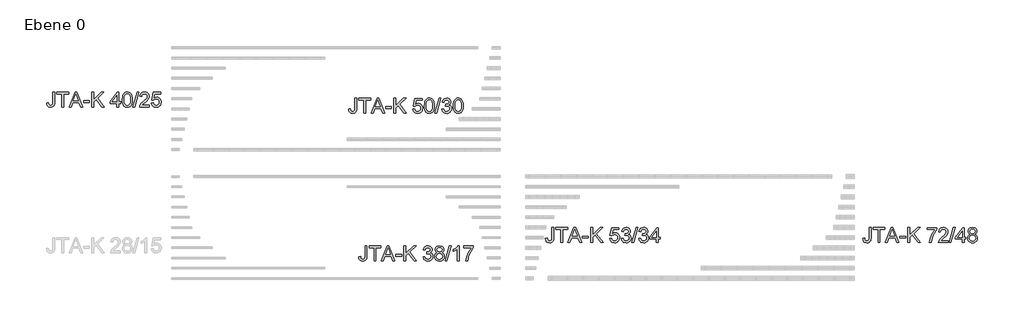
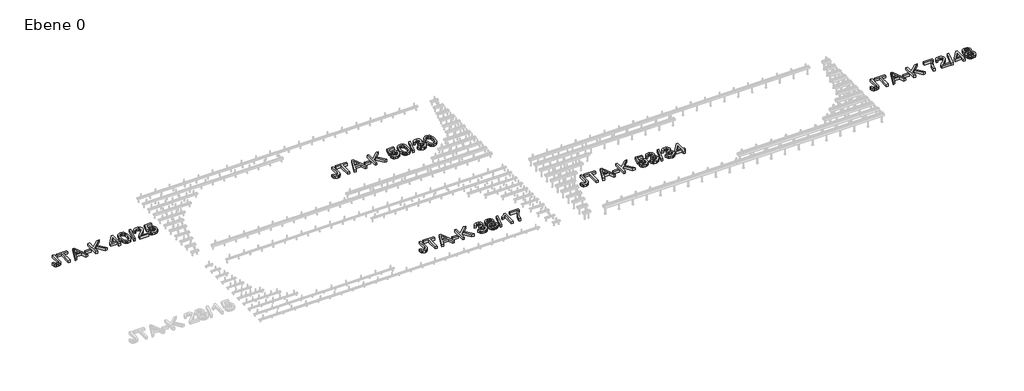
# One storey, part 2 of 2: 5 proxies.
"""IFC4 building model written with IfcOpenShell, lengths in millimetres."""

from ifc_helpers import new_model, si_unit, origin, origin_with_axes, place, context, project, spatial, polyline, outline, extrude, element, save

model = new_model("IFC4")

# Units and contexts
model_context = context("Model", 3, world=origin())
ifc_project = project(units=[si_unit("LENGTHUNIT", "METRE", prefix="MILLI")], contexts=[model_context])

# Site, building, storey
site = spatial("IfcSite", under=ifc_project)
building = spatial("IfcBuilding", under=site)
storey = spatial("IfcBuildingStorey", under=building, Name="Ebene 0", Elevation=0.0)

# Proxies
placement = place(None, origin())
element("IfcBuildingElementProxy", 1, Name="600mm Arial", ObjectType="600mm Arial", at=placement, inside=storey, context=model_context, shape_type="SweptSolid", body=[
    extrude(outline(polyline([(-10093.7628927, 765.6259075), (-10056.8398158, 770.3855229), (-10052.9996716, 743.5405709), (-10044.2196235, 726.7557152), (-10030.806162, 717.9396094), (-10013.0657774, 715.0009075), (-9999.4269552, 716.6685757), (-9987.789335, 721.6715805), (-9978.8109697, 729.5501863), (-9973.149912, 739.8446575), (-9969.1475081, 776.4432152), (-9969.1475081, 978.0778305), (-9932.2244312, 978.0778305), (-9932.2244312, 777.0922536), (-9934.4509937, 744.2166527), (-9941.1306812, 719.7244652), (-9952.6511139, 701.8308354), (-9969.399912, 688.7509075), (-9990.430561, 680.7460998), (-10014.7965466, 678.0778305), (-10048.9251524, 683.585643), (-10062.595525, 690.4704087), (-10074.0032774, 700.1090805), (-10082.945585, 712.465601), (-10089.2196235, 727.5039123), (-10093.7628927, 765.6259075)])), origin_with_axes(), (0.0, 0.0, 1.0), 50.0),
    extrude(outline(polyline([(-9793.7628927, 682.6932152), (-9793.7628927, 941.1547536), (-9890.6859697, 941.1547536), (-9890.6859697, 978.0778305), (-9659.9167389, 978.0778305), (-9659.9167389, 941.1547536), (-9756.8398158, 941.1547536), (-9756.8398158, 682.6932152), (-9793.7628927, 682.6932152)])), origin_with_axes(), (0.0, 0.0, 1.0), 50.0),
    extrude(outline(polyline([(-9652.7773158, 682.6932152), (-9534.868662, 978.0778305), (-9503.4263543, 978.0778305), (-9385.5177004, 682.6932152), (-9424.5321235, 682.6932152), (-9458.3542389, 775.0009075), (-9580.0128927, 775.0009075), (-9613.7628927, 682.6932152), (-9652.7773158, 682.6932152)]), holes=[polyline([(-9566.4552004, 811.9239844), (-9471.8398158, 811.9239844), (-9498.4503927, 884.5441767), (-9519.1475081, 941.1547536), (-9537.5369312, 890.8903305), (-9566.4552004, 811.9239844)])]), origin_with_axes(), (0.0, 0.0, 1.0), 50.0),
    extrude(outline(polyline([(-9369.1475081, 770.3855229), (-9369.1475081, 807.3085998), (-9253.7628927, 807.3085998), (-9253.7628927, 770.3855229), (-9369.1475081, 770.3855229)])), origin_with_axes(), (0.0, 0.0, 1.0), 50.0),
    extrude(outline(polyline([(-9207.6090466, 682.6932152), (-9207.6090466, 978.0778305), (-9170.6859697, 978.0778305), (-9170.6859697, 833.4864844), (-9019.243662, 978.0778305), (-8967.6090466, 978.0778305), (-9094.7484697, 856.6355229), (-8962.993662, 682.6932152), (-9008.1378927, 682.6932152), (-9120.9263543, 831.6835998), (-9170.6859697, 784.2316767), (-9170.6859697, 682.6932152), (-9207.6090466, 682.6932152)])), origin_with_axes(), (0.0, 0.0, 1.0), 50.0),
    extrude(outline(polyline([(-8713.7628927, 682.6932152), (-8713.7628927, 751.9239844), (-8847.6090466, 751.9239844), (-8847.6090466, 788.8470613), (-8704.5321235, 973.4624459), (-8676.8398158, 973.4624459), (-8676.8398158, 788.8470613), (-8639.9167389, 788.8470613), (-8639.9167389, 751.9239844), (-8676.8398158, 751.9239844), (-8676.8398158, 682.6932152), (-8713.7628927, 682.6932152)]), holes=[polyline([(-8713.7628927, 788.8470613), (-8713.7628927, 902.9335998), (-8802.1763543, 788.8470613), (-8713.7628927, 788.8470613)])]), origin_with_axes(), (0.0, 0.0, 1.0), 50.0),
    extrude(outline(polyline([(-8607.6090466, 828.0057152), (-8604.8957052, 875.2863642), (-8596.7556812, 912.9936959), (-8583.2701043, 941.7046334), (-8564.5201043, 961.9960998), (-8540.3704649, 974.0573979), (-8510.6859697, 978.0778305), (-8487.9335658, 975.6980229), (-8467.5609697, 968.5585998), (-8450.52371, 956.9390084), (-8437.7773158, 941.1186959), (-8428.149912, 921.2328786), (-8420.4696235, 897.4167729), (-8415.4395754, 867.1733834), (-8413.7628927, 828.0057152), (-8416.4491908, 780.9954988), (-8424.508085, 743.3783113), (-8437.9125322, 714.6403305), (-8456.6354889, 694.2677344), (-8480.8392149, 682.1253065), (-8510.6859697, 678.0778305), (-8531.0225081, 679.835643), (-8549.0513543, 685.1090805), (-8564.7725081, 693.898143), (-8578.1859697, 706.2028305), (-8591.0585658, 728.4459195), (-8600.2532774, 756.1607632), (-8605.7701043, 789.3473618), (-8607.6090466, 828.0057152)]), holes=[polyline([(-8570.6859697, 828.0778305), (-8566.3590466, 769.9979027), (-8560.9503927, 750.1323678), (-8553.3782774, 736.383119), (-8534.0513543, 720.3464604), (-8510.6859697, 715.0009075), (-8487.320585, 720.3644892), (-8467.993662, 736.4552344), (-8460.4215466, 750.2270192), (-8455.0128927, 770.0880469), (-8450.6859697, 828.0778305), (-8454.868662, 884.8506671), (-8460.0970274, 904.6508474), (-8467.4167389, 918.726869), (-8486.7076043, 935.5477825), (-8511.118662, 941.1547536), (-8534.2316427, 936.2148498), (-8552.8013543, 921.3951382), (-8560.6258735, 906.070619), (-8566.2148158, 885.4095613), (-8570.6859697, 828.0778305)])]), origin_with_axes(), (0.0, 0.0, 1.0), 50.0),
    extrude(outline(polyline([(-8399.9167389, 682.6932152), (-8316.8398158, 978.0778305), (-8283.5225081, 978.0778305), (-8366.5994312, 682.6932152), (-8399.9167389, 682.6932152)])), origin_with_axes(), (0.0, 0.0, 1.0), 50.0),
    extrude(outline(polyline([(-8076.8398158, 719.6162921), (-8076.8398158, 682.6932152), (-8270.6859697, 682.6932152), (-8266.7196235, 708.1499459), (-8257.6150562, 728.0447777), (-8244.2917389, 747.3446575), (-8225.0189024, 767.5459796), (-8198.0657774, 790.1451382), (-8158.2220274, 825.5357632), (-8134.3157774, 851.6595613), (-8122.3626524, 872.8614844), (-8118.3782774, 893.4864844), (-8122.1372918, 911.9750661), (-8133.414335, 927.3446575), (-8150.7490706, 937.7022296), (-8172.681162, 941.1547536), (-8195.7130129, 937.7833594), (-8213.6066427, 927.6691767), (-8225.1541187, 911.6054748), (-8229.1475081, 890.3855229), (-8266.070585, 895.0009075), (-8257.1192629, 930.7160517), (-8248.7426103, 944.9633474), (-8237.7652966, 956.8037921), (-8224.4397257, 966.1111839), (-8209.0183014, 972.7593209), (-8171.8878927, 978.0778305), (-8152.0989805, 976.5994652), (-8134.4870514, 972.164369), (-8119.0521055, 964.7725421), (-8105.7941427, 954.4239844), (-8095.1458555, 941.8849219), (-8087.539936, 927.9215805), (-8082.9763843, 912.5339604), (-8081.4552004, 895.7220613), (-8083.0958254, 878.0628065), (-8088.0177004, 860.7100421), (-8096.7526764, 843.0598017), (-8109.8326043, 824.508119), (-8130.6829649, 802.3596815), (-8162.7292389, 773.9191767), (-8205.2052004, 738.4023498), (-8221.8638543, 719.6162921), (-8076.8398158, 719.6162921)])), origin_with_axes(), (0.0, 0.0, 1.0), 50.0),
    extrude(outline(polyline([(-8039.9167389, 761.1547536), (-8002.993662, 765.7701382), (-7996.2148158, 743.6036719), (-7984.3878927, 727.7292729), (-7967.5669793, 718.1829988), (-7945.806162, 715.0009075), (-7919.3398158, 719.4269892), (-7899.508085, 732.7052344), (-7887.1222677, 753.3031911), (-7882.993662, 779.6884075), (-7886.8608495, 804.5321575), (-7898.462412, 823.5345613), (-7917.8884937, 835.5958594), (-7945.2292389, 839.6162921), (-7963.1408975, 838.0117248), (-7977.6451043, 833.1980229), (-7998.3782774, 816.539369), (-8035.3013543, 821.1547536), (-8002.993662, 973.4624459), (-7859.9167389, 973.4624459), (-7859.9167389, 936.539369), (-7973.1378927, 936.539369), (-7988.931162, 855.1932152), (-7962.55496, 871.2028305), (-7934.9167389, 876.539369), (-7916.9352185, 874.8852224), (-7900.4185418, 869.9227825), (-7885.3667088, 861.6520493), (-7871.7797197, 850.0730229), (-7860.5319733, 835.8933354), (-7852.4978687, 819.820619), (-7847.677406, 801.8548738), (-7846.070585, 781.9960998), (-7851.8578447, 745.0730229), (-7859.0919192, 728.6126863), (-7869.2196235, 713.4864844), (-7884.5621716, 697.9951983), (-7902.4648158, 686.929994), (-7922.9275562, 680.2908714), (-7945.9503927, 678.0778305), (-7982.2154168, 683.7659315), (-7997.5827545, 690.8760577), (-8011.1066427, 700.8302344), (-8022.3588963, 713.1326683), (-8030.9113302, 727.2875661), (-8039.9167389, 761.1547536)])), origin_with_axes(), (0.0, 0.0, 1.0), 50.0),
])
element("IfcBuildingElementProxy", 2, Name="600mm Arial", ObjectType="600mm Arial", at=placement, inside=storey, context=model_context, shape_type="SweptSolid", body=[
    extrude(outline(polyline([(-3973.7628927, -2254.3740925), (-3936.8398158, -2249.6144771), (-3932.9996716, -2276.4594291), (-3924.2196235, -2293.2442848), (-3910.806162, -2302.0603906), (-3893.0657774, -2304.9990925), (-3879.4269552, -2303.3314243), (-3867.789335, -2298.3284195), (-3858.8109697, -2290.4498137), (-3853.149912, -2280.1553425), (-3849.1475081, -2243.5567848), (-3849.1475081, -2041.9221695), (-3812.2244312, -2041.9221695), (-3812.2244312, -2242.9077464), (-3814.4509937, -2275.7833473), (-3821.1306812, -2300.2755348), (-3832.6511139, -2318.1691646), (-3849.399912, -2331.2490925), (-3870.430561, -2339.2539002), (-3894.7965466, -2341.9221695), (-3928.9251524, -2336.414357), (-3942.595525, -2329.5295913), (-3954.0032774, -2319.8909195), (-3962.945585, -2307.534399), (-3969.2196235, -2292.4960877), (-3973.7628927, -2254.3740925)])), origin_with_axes(), (0.0, 0.0, 1.0), 50.0),
    extrude(outline(polyline([(-3673.7628927, -2337.3067848), (-3673.7628927, -2078.8452464), (-3770.6859697, -2078.8452464), (-3770.6859697, -2041.9221695), (-3539.9167389, -2041.9221695), (-3539.9167389, -2078.8452464), (-3636.8398158, -2078.8452464), (-3636.8398158, -2337.3067848), (-3673.7628927, -2337.3067848)])), origin_with_axes(), (0.0, 0.0, 1.0), 50.0),
    extrude(outline(polyline([(-3532.7773158, -2337.3067848), (-3414.868662, -2041.9221695), (-3383.4263543, -2041.9221695), (-3265.5177004, -2337.3067848), (-3304.5321235, -2337.3067848), (-3338.3542389, -2244.9990925), (-3460.0128927, -2244.9990925), (-3493.7628927, -2337.3067848), (-3532.7773158, -2337.3067848)]), holes=[polyline([(-3446.4552004, -2208.0760156), (-3351.8398158, -2208.0760156), (-3378.4503927, -2135.4558233), (-3399.1475081, -2078.8452464), (-3417.5369312, -2129.1096695), (-3446.4552004, -2208.0760156)])]), origin_with_axes(), (0.0, 0.0, 1.0), 50.0),
    extrude(outline(polyline([(-3249.1475081, -2249.6144771), (-3249.1475081, -2212.6914002), (-3133.7628927, -2212.6914002), (-3133.7628927, -2249.6144771), (-3249.1475081, -2249.6144771)])), origin_with_axes(), (0.0, 0.0, 1.0), 50.0),
    extrude(outline(polyline([(-3087.6090466, -2337.3067848), (-3087.6090466, -2041.9221695), (-3050.6859697, -2041.9221695), (-3050.6859697, -2186.5135156), (-2899.243662, -2041.9221695), (-2847.6090466, -2041.9221695), (-2974.7484697, -2163.3644771), (-2842.993662, -2337.3067848), (-2888.1378927, -2337.3067848), (-3000.9263543, -2188.3164002), (-3050.6859697, -2235.7683233), (-3050.6859697, -2337.3067848), (-3087.6090466, -2337.3067848)])), origin_with_axes(), (0.0, 0.0, 1.0), 50.0),
    extrude(outline(polyline([(-2713.7628927, -2258.8452464), (-2676.8398158, -2254.2298618), (-2668.5735899, -2277.4329868), (-2656.4672197, -2293.1000541), (-2639.9257533, -2302.0243329), (-2618.3542389, -2304.9990925), (-2593.0417389, -2300.9065445), (-2573.4984697, -2288.6289002), (-2561.0044793, -2270.3115925), (-2556.8398158, -2248.1000541), (-2560.9684216, -2227.0153185), (-2573.3542389, -2209.9149579), (-2592.1042389, -2198.5838281), (-2615.3253927, -2194.8067848), (-2641.2148158, -2198.8452464), (-2637.1042389, -2161.9221695), (-2631.1907774, -2162.3548618), (-2609.0693831, -2159.7046214), (-2589.2917389, -2151.7539002), (-2575.337412, -2138.304381), (-2570.6859697, -2119.1577464), (-2574.0573639, -2103.211232), (-2584.1715466, -2090.2755348), (-2599.6042389, -2081.7028185), (-2618.931162, -2078.8452464), (-2638.2941427, -2081.7298618), (-2654.1234697, -2090.3837079), (-2665.67996, -2104.8067848), (-2672.2244312, -2124.9990925), (-2709.1475081, -2120.3837079), (-2698.2761139, -2087.2286598), (-2678.931162, -2062.4750541), (-2652.4648158, -2047.0603906), (-2620.2292389, -2041.9221695), (-2597.0170995, -2044.4552223), (-2575.6979889, -2052.054381), (-2557.7232293, -2064.0435637), (-2544.5441427, -2079.7466887), (-2536.4582052, -2097.8386358), (-2533.7628927, -2116.9942848), (-2536.3229889, -2134.8428425), (-2544.0032774, -2151.0327464), (-2556.695585, -2164.8248137), (-2574.2917389, -2175.4798618), (-2551.1787581, -2184.8188041), (-2534.0513543, -2200.7202464), (-2523.4503927, -2222.3188041), (-2519.9167389, -2248.7490925), (-2521.6835658, -2267.4810637), (-2526.9840466, -2284.7346695), (-2535.8181812, -2300.5099098), (-2548.1859697, -2314.8067848), (-2563.2535778, -2326.6697656), (-2580.1871716, -2335.1433233), (-2598.9867509, -2340.2274579), (-2619.6523158, -2341.9221695), (-2655.3494312, -2336.1349098), (-2670.7100081, -2328.9008353), (-2684.4119312, -2318.773131), (-2695.9008134, -2306.3467488), (-2704.6222677, -2292.2166406), (-2713.7628927, -2258.8452464)])), origin_with_axes(), (0.0, 0.0, 1.0), 50.0),
    extrude(outline(polyline([(-2433.8109697, -2174.6144771), (-2453.5795995, -2164.8789002), (-2467.4527966, -2151.6817848), (-2475.6469072, -2135.2935637), (-2478.3782774, -2115.9846695), (-2472.4287581, -2087.1204868), (-2454.5802004, -2063.2683233), (-2441.6940826, -2053.929381), (-2426.8338062, -2047.2587079), (-2391.1907774, -2041.9221695), (-2355.3314024, -2047.3849098), (-2340.3088663, -2054.2133353), (-2327.2244312, -2063.773131), (-2309.0513543, -2088.0039002), (-2304.508085, -2101.9041406), (-2302.993662, -2116.9942848), (-2305.6889745, -2135.6811839), (-2313.774912, -2151.7899579), (-2327.3416187, -2164.9059435), (-2346.4792389, -2174.6144771), (-2323.7538783, -2186.3242127), (-2307.212412, -2203.5688041), (-2297.1252725, -2225.5189243), (-2293.7628927, -2251.3452464), (-2295.430561, -2269.7617127), (-2300.4335658, -2286.6457271), (-2308.7719072, -2301.9972896), (-2320.445585, -2315.8164002), (-2334.8416187, -2327.2376743), (-2351.3470274, -2335.3957271), (-2369.961811, -2340.2905589), (-2390.6859697, -2341.9221695), (-2411.4101283, -2340.2837981), (-2430.024912, -2335.3686839), (-2446.5303206, -2327.1768269), (-2460.9263543, -2315.7082271), (-2472.6000322, -2301.7922115), (-2480.9383735, -2286.258107), (-2485.9413783, -2269.1059134), (-2487.6090466, -2250.335631), (-2484.1114504, -2223.5087079), (-2473.618662, -2201.4414002), (-2456.6715466, -2184.8909195), (-2433.8109697, -2174.6144771)]), holes=[polyline([(-2441.4552004, -2117.0664002), (-2438.1829649, -2133.1841887), (-2428.3662581, -2146.0567848), (-2412.2935418, -2154.4942848), (-2390.2532774, -2157.3067848), (-2368.726835, -2154.5123137), (-2352.8975081, -2146.1289002), (-2343.1619312, -2133.6889964), (-2339.9167389, -2118.7250541), (-2343.2701043, -2103.1932031), (-2353.3302004, -2090.3476502), (-2369.3758735, -2081.7208473), (-2390.6859697, -2078.8452464), (-2412.1312822, -2081.6577464), (-2428.149912, -2090.0952464), (-2438.1288783, -2102.4630348), (-2441.4552004, -2117.0664002)]), polyline([(-2450.6859697, -2249.0375541), (-2444.5201043, -2276.8380348), (-2435.9834456, -2288.7641166), (-2422.7052004, -2297.6433233), (-2406.8037581, -2303.1601502), (-2390.3975081, -2304.9990925), (-2365.2652966, -2301.131905), (-2346.4071235, -2289.5303425), (-2334.6162581, -2271.961232), (-2330.6859697, -2250.1914002), (-2334.74246, -2228.0519771), (-2346.9119312, -2210.0952464), (-2366.2027966, -2198.1962079), (-2391.6234697, -2194.2298618), (-2416.4041187, -2198.1421214), (-2435.0729889, -2209.8789002), (-2446.7827245, -2227.4930829), (-2450.6859697, -2249.0375541)])]), origin_with_axes(), (0.0, 0.0, 1.0), 50.0),
    extrude(outline(polyline([(-2279.9167389, -2337.3067848), (-2196.8398158, -2041.9221695), (-2163.5225081, -2041.9221695), (-2246.5994312, -2337.3067848), (-2279.9167389, -2337.3067848)])), origin_with_axes(), (0.0, 0.0, 1.0), 50.0),
    extrude(outline(polyline([(-2007.6090466, -2337.3067848), (-2044.5321235, -2337.3067848), (-2044.5321235, -2107.1144771), (-2079.508085, -2132.0303425), (-2118.3782774, -2150.6721695), (-2118.3782774, -2115.7683233), (-2089.3788783, -2099.9930829), (-2064.2556812, -2081.2250541), (-2044.4509937, -2061.2671214), (-2031.4071235, -2041.9221695), (-2007.6090466, -2041.9221695), (-2007.6090466, -2337.3067848)])), origin_with_axes(), (0.0, 0.0, 1.0), 50.0),
    extrude(outline(polyline([(-1919.9167389, -2083.460631), (-1919.9167389, -2046.5375541), (-1726.070585, -2046.5375541), (-1726.070585, -2076.3933233), (-1753.6997918, -2111.3602704), (-1781.0585658, -2155.8284195), (-1805.1901764, -2205.74128), (-1823.1378927, -2257.0423618), (-1831.9359697, -2295.4257752), (-1836.8398158, -2337.3067848), (-1873.7628927, -2337.3067848), (-1869.7695033, -2299.2478906), (-1859.087412, -2254.0135156), (-1842.0050802, -2206.0657993), (-1818.8109697, -2159.866881), (-1791.7316427, -2118.1030589), (-1762.993662, -2083.460631), (-1919.9167389, -2083.460631)])), origin_with_axes(), (0.0, 0.0, 1.0), 50.0),
])
element("IfcBuildingElementProxy", 3, Name="600mm Arial", ObjectType="600mm Arial", at=placement, inside=storey, context=model_context, shape_type="SweptSolid", body=[
    extrude(outline(polyline([(-4173.7628927, 645.6259075), (-4136.8398158, 650.3855229), (-4132.9996716, 623.5405709), (-4124.2196235, 606.7557152), (-4110.806162, 597.9396094), (-4093.0657774, 595.0009075), (-4079.4269552, 596.6685757), (-4067.789335, 601.6715805), (-4058.8109697, 609.5501863), (-4053.149912, 619.8446575), (-4049.1475081, 656.4432152), (-4049.1475081, 858.0778305), (-4012.2244312, 858.0778305), (-4012.2244312, 657.0922536), (-4014.4509937, 624.2166527), (-4021.1306812, 599.7244652), (-4032.6511139, 581.8308354), (-4049.399912, 568.7509075), (-4070.430561, 560.7460998), (-4094.7965466, 558.0778305), (-4128.9251524, 563.585643), (-4142.595525, 570.4704087), (-4154.0032774, 580.1090805), (-4162.945585, 592.465601), (-4169.2196235, 607.5039123), (-4173.7628927, 645.6259075)])), origin_with_axes(), (0.0, 0.0, 1.0), 50.0),
    extrude(outline(polyline([(-3873.7628927, 562.6932152), (-3873.7628927, 821.1547536), (-3970.6859697, 821.1547536), (-3970.6859697, 858.0778305), (-3739.9167389, 858.0778305), (-3739.9167389, 821.1547536), (-3836.8398158, 821.1547536), (-3836.8398158, 562.6932152), (-3873.7628927, 562.6932152)])), origin_with_axes(), (0.0, 0.0, 1.0), 50.0),
    extrude(outline(polyline([(-3732.7773158, 562.6932152), (-3614.868662, 858.0778305), (-3583.4263543, 858.0778305), (-3465.5177004, 562.6932152), (-3504.5321235, 562.6932152), (-3538.3542389, 655.0009075), (-3660.0128927, 655.0009075), (-3693.7628927, 562.6932152), (-3732.7773158, 562.6932152)]), holes=[polyline([(-3646.4552004, 691.9239844), (-3551.8398158, 691.9239844), (-3578.4503927, 764.5441767), (-3599.1475081, 821.1547536), (-3617.5369312, 770.8903305), (-3646.4552004, 691.9239844)])]), origin_with_axes(), (0.0, 0.0, 1.0), 50.0),
    extrude(outline(polyline([(-3449.1475081, 650.3855229), (-3449.1475081, 687.3085998), (-3333.7628927, 687.3085998), (-3333.7628927, 650.3855229), (-3449.1475081, 650.3855229)])), origin_with_axes(), (0.0, 0.0, 1.0), 50.0),
    extrude(outline(polyline([(-3287.6090466, 562.6932152), (-3287.6090466, 858.0778305), (-3250.6859697, 858.0778305), (-3250.6859697, 713.4864844), (-3099.243662, 858.0778305), (-3047.6090466, 858.0778305), (-3174.7484697, 736.6355229), (-3042.993662, 562.6932152), (-3088.1378927, 562.6932152), (-3200.9263543, 711.6835998), (-3250.6859697, 664.2316767), (-3250.6859697, 562.6932152), (-3287.6090466, 562.6932152)])), origin_with_axes(), (0.0, 0.0, 1.0), 50.0),
    extrude(outline(polyline([(-2913.7628927, 641.1547536), (-2876.8398158, 645.7701382), (-2870.0609697, 623.6036719), (-2858.2340466, 607.7292729), (-2841.4131331, 598.1829988), (-2819.6523158, 595.0009075), (-2793.1859697, 599.4269892), (-2773.3542389, 612.7052344), (-2760.9684216, 633.3031911), (-2756.8398158, 659.6884075), (-2760.7070033, 684.5321575), (-2772.3085658, 703.5345613), (-2791.7346475, 715.5958594), (-2819.0753927, 719.6162921), (-2836.9870514, 718.0117248), (-2851.4912581, 713.1980229), (-2872.2244312, 696.539369), (-2909.1475081, 701.1547536), (-2876.8398158, 853.4624459), (-2733.7628927, 853.4624459), (-2733.7628927, 816.539369), (-2846.9840466, 816.539369), (-2862.7773158, 735.1932152), (-2836.4011139, 751.2028305), (-2808.7628927, 756.539369), (-2790.7813723, 754.8852224), (-2774.2646956, 749.9227825), (-2759.2128627, 741.6520493), (-2745.6258735, 730.0730229), (-2734.3781271, 715.8933354), (-2726.3440225, 699.820619), (-2721.5235598, 681.8548738), (-2719.9167389, 661.9960998), (-2725.7039985, 625.0730229), (-2732.938073, 608.6126863), (-2743.0657774, 593.4864844), (-2758.4083254, 577.9951983), (-2776.3109697, 566.929994), (-2796.77371, 560.2908714), (-2819.7965466, 558.0778305), (-2856.0615706, 563.7659315), (-2871.4289084, 570.8760577), (-2884.9527966, 580.8302344), (-2896.2050502, 593.1326683), (-2904.7574841, 607.2875661), (-2913.7628927, 641.1547536)])), origin_with_axes(), (0.0, 0.0, 1.0), 50.0),
    extrude(outline(polyline([(-2687.6090466, 708.0057152), (-2684.8957052, 755.2863642), (-2676.7556812, 792.9936959), (-2663.2701043, 821.7046334), (-2644.5201043, 841.9960998), (-2620.3704649, 854.0573979), (-2590.6859697, 858.0778305), (-2567.9335658, 855.6980229), (-2547.5609697, 848.5585998), (-2530.52371, 836.9390084), (-2517.7773158, 821.1186959), (-2508.149912, 801.2328786), (-2500.4696235, 777.4167729), (-2495.4395754, 747.1733834), (-2493.7628927, 708.0057152), (-2496.4491908, 660.9954988), (-2504.508085, 623.3783113), (-2517.9125322, 594.6403305), (-2536.6354889, 574.2677344), (-2560.8392149, 562.1253065), (-2590.6859697, 558.0778305), (-2611.0225081, 559.835643), (-2629.0513543, 565.1090805), (-2644.7725081, 573.898143), (-2658.1859697, 586.2028305), (-2671.0585658, 608.4459195), (-2680.2532774, 636.1607632), (-2685.7701043, 669.3473618), (-2687.6090466, 708.0057152)]), holes=[polyline([(-2650.6859697, 708.0778305), (-2646.3590466, 649.9979027), (-2640.9503927, 630.1323678), (-2633.3782774, 616.383119), (-2614.0513543, 600.3464604), (-2590.6859697, 595.0009075), (-2567.320585, 600.3644892), (-2547.993662, 616.4552344), (-2540.4215466, 630.2270192), (-2535.0128927, 650.0880469), (-2530.6859697, 708.0778305), (-2534.868662, 764.8506671), (-2540.0970274, 784.6508474), (-2547.4167389, 798.726869), (-2566.7076043, 815.5477825), (-2591.118662, 821.1547536), (-2614.2316427, 816.2148498), (-2632.8013543, 801.3951382), (-2640.6258735, 786.070619), (-2646.2148158, 765.4095613), (-2650.6859697, 708.0778305)])]), origin_with_axes(), (0.0, 0.0, 1.0), 50.0),
    extrude(outline(polyline([(-2479.9167389, 562.6932152), (-2396.8398158, 858.0778305), (-2363.5225081, 858.0778305), (-2446.5994312, 562.6932152), (-2479.9167389, 562.6932152)])), origin_with_axes(), (0.0, 0.0, 1.0), 50.0),
    extrude(outline(polyline([(-2346.070585, 641.1547536), (-2309.1475081, 645.7701382), (-2300.8812822, 622.5670132), (-2288.774912, 606.8999459), (-2272.2334456, 597.9756671), (-2250.6619312, 595.0009075), (-2225.3494312, 599.0934555), (-2205.806162, 611.3710998), (-2193.3121716, 629.6884075), (-2189.1475081, 651.8999459), (-2193.2761139, 672.9846815), (-2205.6619312, 690.0850421), (-2224.4119312, 701.4161719), (-2247.633085, 705.1932152), (-2273.5225081, 701.1547536), (-2269.4119312, 738.0778305), (-2263.4984697, 737.6451382), (-2241.3770754, 740.2953786), (-2221.5994312, 748.2460998), (-2207.6451043, 761.695619), (-2202.993662, 780.8422536), (-2206.3650562, 796.788768), (-2216.4792389, 809.7244652), (-2231.9119312, 818.2971815), (-2251.2388543, 821.1547536), (-2270.601835, 818.2701382), (-2286.431162, 809.6162921), (-2297.9876524, 795.1932152), (-2304.5321235, 775.0009075), (-2341.4552004, 779.6162921), (-2330.5838062, 812.7713402), (-2311.2388543, 837.5249459), (-2284.7725081, 852.9396094), (-2252.5369312, 858.0778305), (-2229.3247918, 855.5447777), (-2208.0056812, 847.945619), (-2190.0309216, 835.9564363), (-2176.851835, 820.2533113), (-2168.7658975, 802.1613642), (-2166.070585, 783.0057152), (-2168.6306812, 765.1571575), (-2176.3109697, 748.9672536), (-2189.0032774, 735.1751863), (-2206.5994312, 724.5201382), (-2183.4864504, 715.1811959), (-2166.3590466, 699.2797536), (-2155.758085, 677.6811959), (-2152.2244312, 651.2509075), (-2153.9912581, 632.5189363), (-2159.2917389, 615.2653305), (-2168.1258735, 599.4900902), (-2180.493662, 585.1932152), (-2195.5612701, 573.3302344), (-2212.4948639, 564.8566767), (-2231.2944432, 559.7725421), (-2251.9600081, 558.0778305), (-2287.6571235, 563.8650902), (-2303.0177004, 571.0991647), (-2316.7196235, 581.226869), (-2328.2085057, 593.6532512), (-2336.92996, 607.7833594), (-2346.070585, 641.1547536)])), origin_with_axes(), (0.0, 0.0, 1.0), 50.0),
    extrude(outline(polyline([(-2119.9167389, 708.0057152), (-2117.2033975, 755.2863642), (-2109.0633735, 792.9936959), (-2095.5777966, 821.7046334), (-2076.8277966, 841.9960998), (-2052.6781572, 854.0573979), (-2022.993662, 858.0778305), (-2000.2412581, 855.6980229), (-1979.868662, 848.5585998), (-1962.8314024, 836.9390084), (-1950.0850081, 821.1186959), (-1940.4576043, 801.2328786), (-1932.7773158, 777.4167729), (-1927.7472677, 747.1733834), (-1926.070585, 708.0057152), (-1928.7568831, 660.9954988), (-1936.8157774, 623.3783113), (-1950.2202245, 594.6403305), (-1968.9431812, 574.2677344), (-1993.1469072, 562.1253065), (-2022.993662, 558.0778305), (-2043.3302004, 559.835643), (-2061.3590466, 565.1090805), (-2077.0802004, 573.898143), (-2090.493662, 586.2028305), (-2103.3662581, 608.4459195), (-2112.5609697, 636.1607632), (-2118.0777966, 669.3473618), (-2119.9167389, 708.0057152)]), holes=[polyline([(-2082.993662, 708.0778305), (-2078.6667389, 649.9979027), (-2073.258085, 630.1323678), (-2065.6859697, 616.383119), (-2046.3590466, 600.3464604), (-2022.993662, 595.0009075), (-1999.6282774, 600.3644892), (-1980.3013543, 616.4552344), (-1972.7292389, 630.2270192), (-1967.320585, 650.0880469), (-1962.993662, 708.0778305), (-1967.1763543, 764.8506671), (-1972.4047197, 784.6508474), (-1979.7244312, 798.726869), (-1999.0152966, 815.5477825), (-2023.4263543, 821.1547536), (-2046.539335, 816.2148498), (-2065.1090466, 801.3951382), (-2072.9335658, 786.070619), (-2078.5225081, 765.4095613), (-2082.993662, 708.0778305)])]), origin_with_axes(), (0.0, 0.0, 1.0), 50.0),
])
element("IfcBuildingElementProxy", 4, Name="600mm Arial", ObjectType="600mm Arial", at=placement, inside=storey, context=model_context, shape_type="SweptSolid", body=[
    extrude(outline(polyline([(-313.7628927, -1894.3740925), (-276.8398158, -1889.6144771), (-272.9996716, -1916.4594291), (-264.2196235, -1933.2442848), (-250.806162, -1942.0603906), (-233.0657774, -1944.9990925), (-219.4269552, -1943.3314243), (-207.789335, -1938.3284195), (-198.8109697, -1930.4498137), (-193.149912, -1920.1553425), (-189.1475081, -1883.5567848), (-189.1475081, -1681.9221695), (-152.2244312, -1681.9221695), (-152.2244312, -1882.9077464), (-154.4509937, -1915.7833473), (-161.1306812, -1940.2755348), (-172.6511139, -1958.1691646), (-189.399912, -1971.2490925), (-210.430561, -1979.2539002), (-234.7965466, -1981.9221695), (-268.9251524, -1976.414357), (-282.595525, -1969.5295913), (-294.0032774, -1959.8909195), (-302.945585, -1947.534399), (-309.2196235, -1932.4960877), (-313.7628927, -1894.3740925)])), origin_with_axes(), (0.0, 0.0, 1.0), 50.0),
    extrude(outline(polyline([(-13.7628927, -1977.3067848), (-13.7628927, -1718.8452464), (-110.6859697, -1718.8452464), (-110.6859697, -1681.9221695), (120.0832611, -1681.9221695), (120.0832611, -1718.8452464), (23.1601842, -1718.8452464), (23.1601842, -1977.3067848), (-13.7628927, -1977.3067848)])), origin_with_axes(), (0.0, 0.0, 1.0), 50.0),
    extrude(outline(polyline([(127.2226842, -1977.3067848), (245.131338, -1681.9221695), (276.5736457, -1681.9221695), (394.4822996, -1977.3067848), (355.4678765, -1977.3067848), (321.6457611, -1884.9990925), (199.9871073, -1884.9990925), (166.2371073, -1977.3067848), (127.2226842, -1977.3067848)]), holes=[polyline([(213.5447996, -1848.0760156), (308.1601842, -1848.0760156), (281.5496073, -1775.4558233), (260.8524919, -1718.8452464), (242.4630688, -1769.1096695), (213.5447996, -1848.0760156)])]), origin_with_axes(), (0.0, 0.0, 1.0), 50.0),
    extrude(outline(polyline([(410.8524919, -1889.6144771), (410.8524919, -1852.6914002), (526.2371073, -1852.6914002), (526.2371073, -1889.6144771), (410.8524919, -1889.6144771)])), origin_with_axes(), (0.0, 0.0, 1.0), 50.0),
    extrude(outline(polyline([(572.3909534, -1977.3067848), (572.3909534, -1681.9221695), (609.3140303, -1681.9221695), (609.3140303, -1826.5135156), (760.756338, -1681.9221695), (812.3909534, -1681.9221695), (685.2515303, -1803.3644771), (817.006338, -1977.3067848), (771.8621073, -1977.3067848), (659.0736457, -1828.3164002), (609.3140303, -1875.7683233), (609.3140303, -1977.3067848), (572.3909534, -1977.3067848)])), origin_with_axes(), (0.0, 0.0, 1.0), 50.0),
    extrude(outline(polyline([(946.2371073, -1898.8452464), (983.1601842, -1894.2298618), (989.9390303, -1916.3963281), (1001.7659534, -1932.2707271), (1018.5868669, -1941.8170012), (1040.3476842, -1944.9990925), (1066.8140303, -1940.5730108), (1086.6457611, -1927.2947656), (1099.0315784, -1906.6968089), (1103.1601842, -1880.3115925), (1099.2929967, -1855.4678425), (1087.6914342, -1836.4654387), (1068.2653525, -1824.4041406), (1040.9246073, -1820.3837079), (1023.0129486, -1821.9882752), (1008.5087419, -1826.8019771), (987.7755688, -1843.460631), (950.8524919, -1838.8452464), (983.1601842, -1686.5375541), (1126.2371073, -1686.5375541), (1126.2371073, -1723.460631), (1013.0159534, -1723.460631), (997.2226842, -1804.8067848), (1023.5988861, -1788.7971695), (1051.2371073, -1783.460631), (1069.2186277, -1785.1147776), (1085.7353044, -1790.0772175), (1100.7871373, -1798.3479507), (1114.3741265, -1809.9269771), (1125.6218729, -1824.1066646), (1133.6559775, -1840.179381), (1138.4764402, -1858.1451262), (1140.0832611, -1878.0039002), (1134.2960015, -1914.9269771), (1127.061927, -1931.3873137), (1116.9342226, -1946.5135156), (1101.5916746, -1962.0048017), (1083.6890303, -1973.070006), (1063.22629, -1979.7091286), (1040.2034534, -1981.9221695), (1003.9384294, -1976.2340685), (988.5710916, -1969.1239423), (975.0472034, -1959.1697656), (963.7949498, -1946.8673317), (955.2425159, -1932.7124339), (946.2371073, -1898.8452464)])), origin_with_axes(), (0.0, 0.0, 1.0), 50.0),
    extrude(outline(polyline([(1172.3909534, -1898.8452464), (1209.3140303, -1894.2298618), (1217.5802563, -1917.4329868), (1229.6866265, -1933.1000541), (1246.2280928, -1942.0243329), (1267.7996073, -1944.9990925), (1293.1121073, -1940.9065445), (1312.6553765, -1928.6289002), (1325.1493669, -1910.3115925), (1329.3140303, -1888.1000541), (1325.1854246, -1867.0153185), (1312.7996073, -1849.9149579), (1294.0496073, -1838.5838281), (1270.8284534, -1834.8067848), (1244.9390303, -1838.8452464), (1249.0496073, -1801.9221695), (1254.9630688, -1802.3548618), (1277.084463, -1799.7046214), (1296.8621073, -1791.7539002), (1310.8164342, -1778.304381), (1315.4678765, -1759.1577464), (1312.0964823, -1743.211232), (1301.9822996, -1730.2755348), (1286.5496073, -1721.7028185), (1267.2226842, -1718.8452464), (1247.8597034, -1721.7298618), (1232.0303765, -1730.3837079), (1220.4738861, -1744.8067848), (1213.929415, -1764.9990925), (1177.006338, -1760.3837079), (1187.8777323, -1727.2286598), (1207.2226842, -1702.4750541), (1233.6890303, -1687.0603906), (1265.9246073, -1681.9221695), (1289.1367467, -1684.4552223), (1310.4558573, -1692.054381), (1328.4306169, -1704.0435637), (1341.6097034, -1719.7466887), (1349.6956409, -1737.8386358), (1352.3909534, -1756.9942848), (1349.8308573, -1774.8428425), (1342.1505688, -1791.0327464), (1329.4582611, -1804.8248137), (1311.8621073, -1815.4798618), (1334.975088, -1824.8188041), (1352.1024919, -1840.7202464), (1362.7034534, -1862.3188041), (1366.2371073, -1888.7490925), (1364.4702803, -1907.4810637), (1359.1697996, -1924.7346695), (1350.335665, -1940.5099098), (1337.9678765, -1954.8067848), (1322.9002683, -1966.6697656), (1305.9666746, -1975.1433233), (1287.1670952, -1980.2274579), (1266.5015303, -1981.9221695), (1230.804415, -1976.1349098), (1215.443838, -1968.9008353), (1201.741915, -1958.773131), (1190.2530327, -1946.3467488), (1181.5315784, -1932.2166406), (1172.3909534, -1898.8452464)])), origin_with_axes(), (0.0, 0.0, 1.0), 50.0),
    extrude(outline(polyline([(1380.0832611, -1977.3067848), (1463.1601842, -1681.9221695), (1496.4774919, -1681.9221695), (1413.4005688, -1977.3067848), (1380.0832611, -1977.3067848)])), origin_with_axes(), (0.0, 0.0, 1.0), 50.0),
    extrude(outline(polyline([(1513.929415, -1898.8452464), (1550.8524919, -1894.2298618), (1559.1187178, -1917.4329868), (1571.225088, -1933.1000541), (1587.7665544, -1942.0243329), (1609.3380688, -1944.9990925), (1634.6505688, -1940.9065445), (1654.193838, -1928.6289002), (1666.6878284, -1910.3115925), (1670.8524919, -1888.1000541), (1666.7238861, -1867.0153185), (1654.3380688, -1849.9149579), (1635.5880688, -1838.5838281), (1612.366915, -1834.8067848), (1586.4774919, -1838.8452464), (1590.5880688, -1801.9221695), (1596.5015303, -1802.3548618), (1618.6229246, -1799.7046214), (1638.4005688, -1791.7539002), (1652.3548957, -1778.304381), (1657.006338, -1759.1577464), (1653.6349438, -1743.211232), (1643.5207611, -1730.2755348), (1628.0880688, -1721.7028185), (1608.7611457, -1718.8452464), (1589.398165, -1721.7298618), (1573.568838, -1730.3837079), (1562.0123476, -1744.8067848), (1555.4678765, -1764.9990925), (1518.5447996, -1760.3837079), (1529.4161938, -1727.2286598), (1548.7611457, -1702.4750541), (1575.2274919, -1687.0603906), (1607.4630688, -1681.9221695), (1630.6752082, -1684.4552223), (1651.9943188, -1692.054381), (1669.9690784, -1704.0435637), (1683.148165, -1719.7466887), (1691.2341025, -1737.8386358), (1693.929415, -1756.9942848), (1691.3693188, -1774.8428425), (1683.6890303, -1791.0327464), (1670.9967226, -1804.8248137), (1653.4005688, -1815.4798618), (1676.5135496, -1824.8188041), (1693.6409534, -1840.7202464), (1704.241915, -1862.3188041), (1707.7755688, -1888.7490925), (1706.0087419, -1907.4810637), (1700.7082611, -1924.7346695), (1691.8741265, -1940.5099098), (1679.506338, -1954.8067848), (1664.4387299, -1966.6697656), (1647.5051361, -1975.1433233), (1628.7055568, -1980.2274579), (1608.0399919, -1981.9221695), (1572.3428765, -1976.1349098), (1556.9822996, -1968.9008353), (1543.2803765, -1958.773131), (1531.7914943, -1946.3467488), (1523.07004, -1932.2166406), (1513.929415, -1898.8452464)])), origin_with_axes(), (0.0, 0.0, 1.0), 50.0),
    extrude(outline(polyline([(1860.0832611, -1977.3067848), (1860.0832611, -1908.0760156), (1726.2371073, -1908.0760156), (1726.2371073, -1871.1529387), (1869.3140303, -1686.5375541), (1897.006338, -1686.5375541), (1897.006338, -1871.1529387), (1933.929415, -1871.1529387), (1933.929415, -1908.0760156), (1897.006338, -1908.0760156), (1897.006338, -1977.3067848), (1860.0832611, -1977.3067848)]), holes=[polyline([(1860.0832611, -1871.1529387), (1860.0832611, -1757.0664002), (1771.6697996, -1871.1529387), (1860.0832611, -1871.1529387)])]), origin_with_axes(), (0.0, 0.0, 1.0), 50.0),
])
element("IfcBuildingElementProxy", 5, Name="600mm Arial", ObjectType="600mm Arial", at=placement, inside=storey, context=model_context, shape_type="SweptSolid", body=[
    extrude(outline(polyline([(5906.2371073, -1894.3740925), (5943.1601842, -1889.6144771), (5947.0003284, -1916.4594291), (5955.7803765, -1933.2442848), (5969.193838, -1942.0603906), (5986.9342226, -1944.9990925), (6000.5730448, -1943.3314243), (6012.210665, -1938.3284195), (6021.1890303, -1930.4498137), (6026.850088, -1920.1553425), (6030.8524919, -1883.5567848), (6030.8524919, -1681.9221695), (6067.7755688, -1681.9221695), (6067.7755688, -1882.9077464), (6065.5490063, -1915.7833473), (6058.8693188, -1940.2755348), (6047.3488861, -1958.1691646), (6030.600088, -1971.2490925), (6009.569439, -1979.2539002), (5985.2034534, -1981.9221695), (5951.0748476, -1976.414357), (5937.404475, -1969.5295913), (5925.9967226, -1959.8909195), (5917.054415, -1947.534399), (5910.7803765, -1932.4960877), (5906.2371073, -1894.3740925)])), origin_with_axes(), (0.0, 0.0, 1.0), 50.0),
    extrude(outline(polyline([(6206.2371073, -1977.3067848), (6206.2371073, -1718.8452464), (6109.3140303, -1718.8452464), (6109.3140303, -1681.9221695), (6340.0832611, -1681.9221695), (6340.0832611, -1718.8452464), (6243.1601842, -1718.8452464), (6243.1601842, -1977.3067848), (6206.2371073, -1977.3067848)])), origin_with_axes(), (0.0, 0.0, 1.0), 50.0),
    extrude(outline(polyline([(6347.2226842, -1977.3067848), (6465.131338, -1681.9221695), (6496.5736457, -1681.9221695), (6614.4822996, -1977.3067848), (6575.4678765, -1977.3067848), (6541.6457611, -1884.9990925), (6419.9871073, -1884.9990925), (6386.2371073, -1977.3067848), (6347.2226842, -1977.3067848)]), holes=[polyline([(6433.5447996, -1848.0760156), (6528.1601842, -1848.0760156), (6501.5496073, -1775.4558233), (6480.8524919, -1718.8452464), (6462.4630688, -1769.1096695), (6433.5447996, -1848.0760156)])]), origin_with_axes(), (0.0, 0.0, 1.0), 50.0),
    extrude(outline(polyline([(6630.8524919, -1889.6144771), (6630.8524919, -1852.6914002), (6746.2371073, -1852.6914002), (6746.2371073, -1889.6144771), (6630.8524919, -1889.6144771)])), origin_with_axes(), (0.0, 0.0, 1.0), 50.0),
    extrude(outline(polyline([(6792.3909534, -1977.3067848), (6792.3909534, -1681.9221695), (6829.3140303, -1681.9221695), (6829.3140303, -1826.5135156), (6980.756338, -1681.9221695), (7032.3909534, -1681.9221695), (6905.2515303, -1803.3644771), (7037.006338, -1977.3067848), (6991.8621073, -1977.3067848), (6879.0736457, -1828.3164002), (6829.3140303, -1875.7683233), (6829.3140303, -1977.3067848), (6792.3909534, -1977.3067848)])), origin_with_axes(), (0.0, 0.0, 1.0), 50.0),
    extrude(outline(polyline([(7166.2371073, -1723.460631), (7166.2371073, -1686.5375541), (7360.0832611, -1686.5375541), (7360.0832611, -1716.3933233), (7332.4540544, -1751.3602704), (7305.0952803, -1795.8284195), (7280.9636698, -1845.74128), (7263.0159534, -1897.0423618), (7254.2178765, -1935.4257752), (7249.3140303, -1977.3067848), (7212.3909534, -1977.3067848), (7216.3843428, -1939.2478906), (7227.0664342, -1894.0135156), (7244.1487659, -1846.0657993), (7267.3428765, -1799.866881), (7294.4222034, -1758.1030589), (7323.1601842, -1723.460631), (7166.2371073, -1723.460631)])), origin_with_axes(), (0.0, 0.0, 1.0), 50.0),
    extrude(outline(polyline([(7581.6217226, -1940.3837079), (7581.6217226, -1977.3067848), (7387.7755688, -1977.3067848), (7391.741915, -1951.8500541), (7400.8464823, -1931.9552223), (7414.1697996, -1912.6553425), (7433.4426361, -1892.4540204), (7460.3957611, -1869.8548618), (7500.2395111, -1834.4642368), (7524.1457611, -1808.3404387), (7536.0988861, -1787.1385156), (7540.0832611, -1766.5135156), (7536.3242467, -1748.0249339), (7525.0472034, -1732.6553425), (7507.7124678, -1722.2977704), (7485.7803765, -1718.8452464), (7462.7485255, -1722.2166406), (7444.8548957, -1732.3308233), (7433.3074198, -1748.3945252), (7429.3140303, -1769.6144771), (7392.3909534, -1764.9990925), (7401.3422755, -1729.2839483), (7409.7189282, -1715.0366526), (7420.6962419, -1703.1962079), (7434.0218128, -1693.8888161), (7449.4432371, -1687.2406791), (7486.5736457, -1681.9221695), (7506.362558, -1683.4005348), (7523.9744871, -1687.835631), (7539.409433, -1695.2274579), (7552.6673957, -1705.5760156), (7563.315683, -1718.1150781), (7570.9216025, -1732.0784195), (7575.4851541, -1747.4660396), (7577.006338, -1764.2779387), (7575.365713, -1781.9371935), (7570.443838, -1799.2899579), (7561.7088621, -1816.9401983), (7548.6289342, -1835.491881), (7527.7785736, -1857.6403185), (7495.7322996, -1886.0808233), (7453.256338, -1921.5976502), (7436.5976842, -1940.3837079), (7581.6217226, -1940.3837079)])), origin_with_axes(), (0.0, 0.0, 1.0), 50.0),
    extrude(outline(polyline([(7600.0832611, -1977.3067848), (7683.1601842, -1681.9221695), (7716.4774919, -1681.9221695), (7633.4005688, -1977.3067848), (7600.0832611, -1977.3067848)])), origin_with_axes(), (0.0, 0.0, 1.0), 50.0),
    extrude(outline(polyline([(7853.929415, -1977.3067848), (7853.929415, -1908.0760156), (7720.0832611, -1908.0760156), (7720.0832611, -1871.1529387), (7863.1601842, -1686.5375541), (7890.8524919, -1686.5375541), (7890.8524919, -1871.1529387), (7927.7755688, -1871.1529387), (7927.7755688, -1908.0760156), (7890.8524919, -1908.0760156), (7890.8524919, -1977.3067848), (7853.929415, -1977.3067848)]), holes=[polyline([(7853.929415, -1871.1529387), (7853.929415, -1757.0664002), (7765.5159534, -1871.1529387), (7853.929415, -1871.1529387)])]), origin_with_axes(), (0.0, 0.0, 1.0), 50.0),
    extrude(outline(polyline([(8013.881338, -1814.6144771), (7994.1127082, -1804.8789002), (7980.2395111, -1791.6817848), (7972.0454005, -1775.2935637), (7969.3140303, -1755.9846695), (7975.2635496, -1727.1204868), (7993.1121073, -1703.2683233), (8005.998225, -1693.929381), (8020.8585015, -1687.2587079), (8056.5015303, -1681.9221695), (8092.3609053, -1687.3849098), (8107.3834414, -1694.2133353), (8120.4678765, -1703.773131), (8138.6409534, -1728.0039002), (8143.1842226, -1741.9041406), (8144.6986457, -1756.9942848), (8142.0033332, -1775.6811839), (8133.9173957, -1791.7899579), (8120.350689, -1804.9059435), (8101.2130688, -1814.6144771), (8123.9384294, -1826.3242127), (8140.4798957, -1843.5688041), (8150.5670351, -1865.5189243), (8153.929415, -1891.3452464), (8152.2617467, -1909.7617127), (8147.2587419, -1926.6457271), (8138.9204005, -1941.9972896), (8127.2467226, -1955.8164002), (8112.850689, -1967.2376743), (8096.3452803, -1975.3957271), (8077.7304967, -1980.2905589), (8057.006338, -1981.9221695), (8036.2821794, -1980.2837981), (8017.6673957, -1975.3686839), (8001.1619871, -1967.1768269), (7986.7659534, -1955.7082271), (7975.0922755, -1941.7922115), (7966.7539342, -1926.258107), (7961.7509294, -1909.1059134), (7960.0832611, -1890.335631), (7963.5808573, -1863.5087079), (7974.0736457, -1841.4414002), (7991.0207611, -1824.8909195), (8013.881338, -1814.6144771)]), holes=[polyline([(7997.006338, -1889.0375541), (8003.1722034, -1916.8380348), (8011.7088621, -1928.7641166), (8024.9871073, -1937.6433233), (8040.8885496, -1943.1601502), (8057.2947996, -1944.9990925), (8082.4270111, -1941.131905), (8101.2851842, -1929.5303425), (8113.0760496, -1911.961232), (8117.006338, -1890.1914002), (8112.9498476, -1868.0519771), (8100.7803765, -1850.0952464), (8081.4895111, -1838.1962079), (8056.068838, -1834.2298618), (8031.288189, -1838.1421214), (8012.6193188, -1849.8789002), (8000.9095832, -1867.4930829), (7997.006338, -1889.0375541)]), polyline([(8006.2371073, -1757.0664002), (8009.5093428, -1773.1841887), (8019.3260496, -1786.0567848), (8035.3987659, -1794.4942848), (8057.4390303, -1797.3067848), (8078.9654726, -1794.5123137), (8094.7947996, -1786.1289002), (8104.5303765, -1773.6889964), (8107.7755688, -1758.7250541), (8104.4222034, -1743.1932031), (8094.3621073, -1730.3476502), (8078.3164342, -1721.7208473), (8057.006338, -1718.8452464), (8035.5610255, -1721.6577464), (8019.5423957, -1730.0952464), (8009.5634294, -1742.4630348), (8006.2371073, -1757.0664002)])]), origin_with_axes(), (0.0, 0.0, 1.0), 50.0),
])

save(model, "model.ifc")
